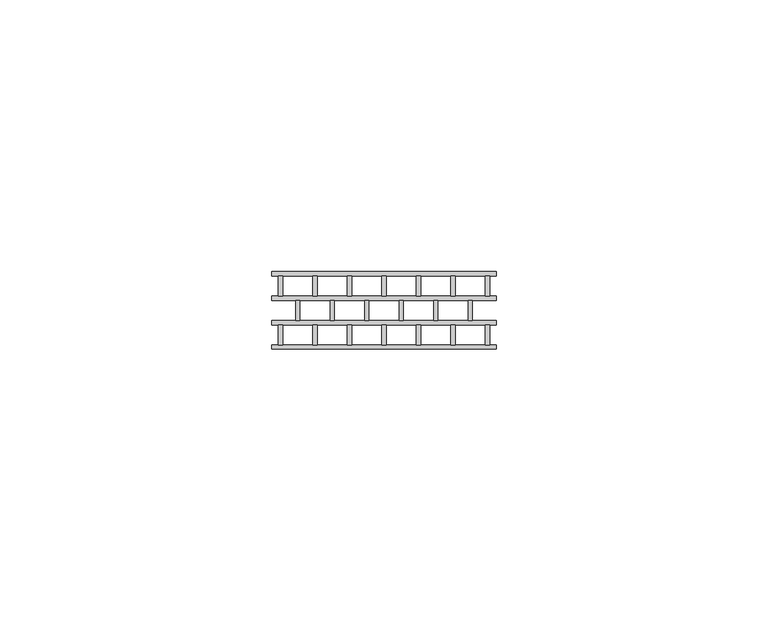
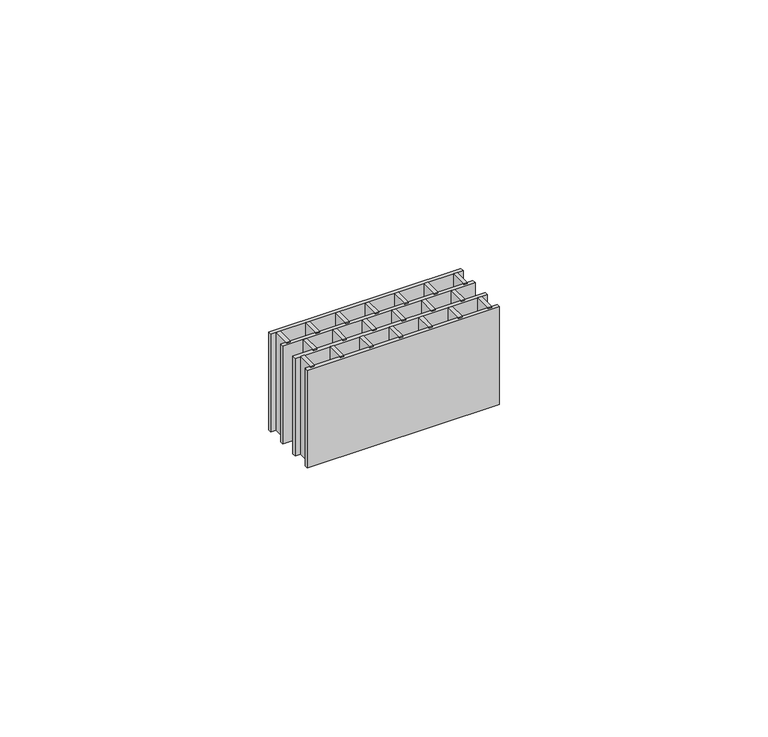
"""IFC4 building model written with IfcOpenShell, lengths in millimetres: proxy geometry, Durabond Generic Model Sealant Vent : Durabond Generic Model Sealant Vent."""

from ifc_helpers import new_model, si_unit, origin, origin_with_axes, place, context, project, spatial, polyline, outline, extrude, source, transform, mapped, element, save


def generic_models_31547c53(model_context):
    return source(origin(), model_context, "Body", "SweptSolid", [
        extrude(outline(polyline([(-18.653125, 6.3461898), (-18.653125, 2.6445633), (-19.446875, 2.6445633), (-19.446875, 6.3461898), (-18.653125, 6.3461898)])), origin_with_axes(), (0.0, 0.0, 1.0), 22.225),
        extrude(outline(polyline([(-12.303125, 6.3461898), (-12.303125, 2.6445633), (-13.096875, 2.6445633), (-13.096875, 6.3461898), (-12.303125, 6.3461898)])), origin_with_axes(), (0.0, 0.0, 1.0), 22.225),
        extrude(outline(polyline([(-5.953125, 6.3461898), (-5.953125, 2.6445633), (-6.746875, 2.6445633), (-6.746875, 6.3461898), (-5.953125, 6.3461898)])), origin_with_axes(), (0.0, 0.0, 1.0), 22.225),
        extrude(outline(polyline([(6.746875, 6.3461898), (6.746875, 2.6445633), (5.953125, 2.6445633), (5.953125, 6.3461898), (6.746875, 6.3461898)])), origin_with_axes(), (0.0, 0.0, 1.0), 22.225),
        extrude(outline(polyline([(13.096875, 6.3461898), (13.096875, 2.6445633), (12.303125, 2.6445633), (12.303125, 6.3461898), (13.096875, 6.3461898)])), origin_with_axes(), (0.0, 0.0, 1.0), 22.225),
        extrude(outline(polyline([(19.446875, 6.3461898), (19.446875, 2.6445633), (18.653125, 2.6445633), (18.653125, 6.3461898), (19.446875, 6.3461898)])), origin_with_axes(), (0.0, 0.0, 1.0), 22.225),
        extrude(outline(polyline([(0.396875, 6.3461898), (0.396875, 2.6445633), (-0.396875, 2.6445633), (-0.396875, 6.3461898), (0.396875, 6.3461898)])), origin_with_axes(), (0.0, 0.0, 1.0), 22.225),
        extrude(outline(polyline([(-18.653125, -2.6521837), (-18.653125, -6.3538102), (-19.446875, -6.3538102), (-19.446875, -2.6521837), (-18.653125, -2.6521837)])), origin_with_axes(), (0.0, 0.0, 1.0), 22.225),
        extrude(outline(polyline([(-12.303125, -2.6521837), (-12.303125, -6.3538102), (-13.096875, -6.3538102), (-13.096875, -2.6521837), (-12.303125, -2.6521837)])), origin_with_axes(), (0.0, 0.0, 1.0), 22.225),
        extrude(outline(polyline([(-5.953125, -2.6521837), (-5.953125, -6.3538102), (-6.746875, -6.3538102), (-6.746875, -2.6521837), (-5.953125, -2.6521837)])), origin_with_axes(), (0.0, 0.0, 1.0), 22.225),
        extrude(outline(polyline([(6.746875, -2.6521837), (6.746875, -6.3538102), (5.953125, -6.3538102), (5.953125, -2.6521837), (6.746875, -2.6521837)])), origin_with_axes(), (0.0, 0.0, 1.0), 22.225),
        extrude(outline(polyline([(13.096875, -2.6521837), (13.096875, -6.3538102), (12.303125, -6.3538102), (12.303125, -2.6521837), (13.096875, -2.6521837)])), origin_with_axes(), (0.0, 0.0, 1.0), 22.225),
        extrude(outline(polyline([(19.446875, -2.6521837), (19.446875, -6.3538102), (18.653125, -6.3538102), (18.653125, -2.6521837), (19.446875, -2.6521837)])), origin_with_axes(), (0.0, 0.0, 1.0), 22.225),
        extrude(outline(polyline([(0.396875, -2.6521837), (0.396875, -6.3538102), (-0.396875, -6.3538102), (-0.396875, -2.6521837), (0.396875, -2.6521837)])), origin_with_axes(), (0.0, 0.0, 1.0), 22.225),
        extrude(outline(polyline([(-15.478125, 1.847003), (-15.478125, -1.8546235), (-16.271875, -1.8546235), (-16.271875, 1.847003), (-15.478125, 1.847003)])), origin_with_axes(), (0.0, 0.0, 1.0), 22.225),
        extrude(outline(polyline([(-9.128125, 1.847003), (-9.128125, -1.8546235), (-9.921875, -1.8546235), (-9.921875, 1.847003), (-9.128125, 1.847003)])), origin_with_axes(), (0.0, 0.0, 1.0), 22.225),
        extrude(outline(polyline([(3.571875, 1.847003), (3.571875, -1.8546235), (2.778125, -1.8546235), (2.778125, 1.847003), (3.571875, 1.847003)])), origin_with_axes(), (0.0, 0.0, 1.0), 22.225),
        extrude(outline(polyline([(9.921875, 1.847003), (9.921875, -1.8546235), (9.128125, -1.8546235), (9.128125, 1.847003), (9.921875, 1.847003)])), origin_with_axes(), (0.0, 0.0, 1.0), 22.225),
        extrude(outline(polyline([(16.271875, 1.847003), (16.271875, -1.8546235), (15.478125, -1.8546235), (15.478125, 1.847003), (16.271875, 1.847003)])), origin_with_axes(), (0.0, 0.0, 1.0), 22.225),
        extrude(outline(polyline([(-2.778125, 1.847003), (-2.778125, -1.8546235), (-3.571875, -1.8546235), (-3.571875, 1.847003), (-2.778125, 1.847003)])), origin_with_axes(), (0.0, 0.0, 1.0), 22.225),
        extrude(outline(polyline([(20.6375, 7.14375), (20.6375, 6.3461898), (-20.6375, 6.3461898), (-20.6375, 7.14375), (20.6375, 7.14375)])), origin_with_axes(), (0.0, 0.0, 1.0), 22.225),
        extrude(outline(polyline([(20.6375, -7.14375), (-20.6375, -7.14375), (-20.6375, -6.3538102), (20.6375, -6.3538102), (20.6375, -7.14375)])), origin_with_axes(), (0.0, 0.0, 1.0), 22.225),
        extrude(outline(polyline([(20.6375, 2.6445633), (20.6375, 1.8495432), (-20.6375, 1.8495432), (-20.6375, 2.6445633), (20.6375, 2.6445633)])), origin_with_axes(), (0.0, 0.0, 1.0), 22.225),
        extrude(outline(polyline([(20.6375, -1.8546235), (20.6375, -2.6471034), (-20.6375, -2.6471034), (-20.6375, -1.8546235), (20.6375, -1.8546235)])), origin_with_axes(), (0.0, 0.0, 1.0), 22.225),
    ])


if __name__ == "__main__":
    model = new_model("IFC4")
    model_context = context("Model", 3, world=origin())
    ifc_project = project(units=[si_unit("LENGTHUNIT", "METRE", prefix="MILLI")], contexts=[model_context])
    site = spatial("IfcSite", under=ifc_project)
    building = spatial("IfcBuilding", under=site)
    placement = place(None, origin())
    generic_models_shape = generic_models_31547c53(model_context)
    element("IfcBuildingElementProxy", 1, Name="Durabond Generic Model Sealant Vent : Durabond Generic Model Sealant Vent", ObjectType="Durabond Generic Model Sealant Vent : Durabond Generic Model Sealant Vent", at=placement, inside=building, context=model_context, shape_type="MappedRepresentation", body=[
        mapped(generic_models_shape, transform((0.0, 0.0, 0.0), x_axis=(1.0, 0.0, 0.0), y_axis=(0.0, 1.0, 0.0), z_axis=(0.0, 0.0, 1.0))),
    ])
    save(model, "model.ifc")
